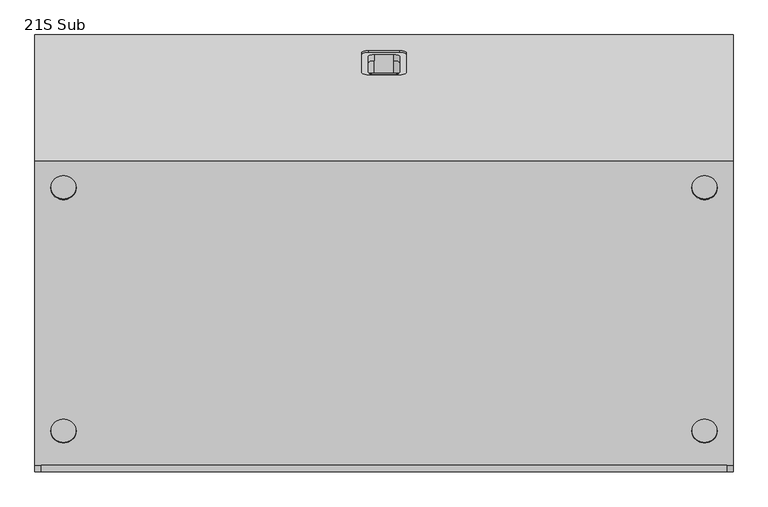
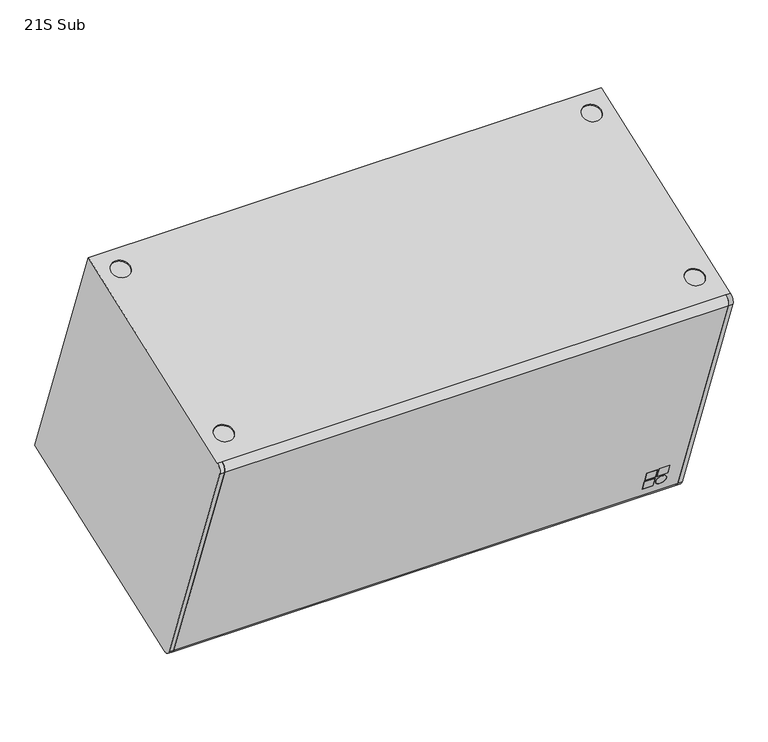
"""IFC4 building model written with IfcOpenShell, lengths in millimetres: proxy geometry, d&b xS-Series 21S Subwoofer : 21S Sub."""

from ifc_helpers import new_model, si_unit, point, frame, frame_2d, origin, place, context, project, spatial, polyline, circle_curve, trimmed, segment, composite_curve, outline, extrude, source, transform, mapped, element, save
from ifc_brep_helpers import plane_surface, cylinder_surface, revolved_surface, advanced_brep


def proxy_21s_sub_c40fc60f(model_context):
    return source(origin(), model_context, "Body", "SolidModel", [
        advanced_brep(
        [(540.0, -192.0343841, -362.5436872), (540.0, -172.8086926, -371.5087743), (540.0, -174.5187933, -366.8103112), (540.0, -187.335921, -360.8335865), (540.0, -375.4469998, 155.997355), (540.0, -369.470275, 168.8144826), (540.0, -371.1803757, 173.5129457), (540.0, -380.1454629, 154.2872542), (-540.0, -192.0343841, -362.5436872), (-540.0, -380.1454629, 154.2872542), (-540.0, -371.1803757, 173.5129457), (-540.0, -369.470275, 168.8144826), (-540.0, -375.4469998, 155.997355), (-540.0, -187.335921, -360.8335865), (-540.0, -174.5187933, -366.8103112), (-540.0, -172.8086926, -371.5087743), (460.0, -206.8552569, -321.8236736), (483.3333333, -206.8552569, -321.8236736), (483.3333333, -198.8747869, -343.7498348), (460.0, -198.8747869, -343.7498348), (460.0, -215.9757941, -296.7652037), (483.3333333, -215.9757941, -296.7652037), (483.3333333, -207.9953241, -318.6913649), (460.0, -207.9953241, -318.6913649), (486.6666667, -215.9757941, -296.7652037), (510.0, -215.9757941, -296.7652037), (510.0, -207.9953241, -318.6913649), (486.6666667, -207.9953241, -318.6913649), (498.3333333, -206.8552569, -321.8236736), (498.3333333, -198.8747869, -343.7498348), (483.3333333, -202.1567938, -320.1135729), (460.0, -202.1567938, -320.1135729), (460.0, -194.1763238, -342.0397341), (483.3333333, -194.1763238, -342.0397341), (483.3333333, -211.277331, -295.055103), (460.0, -211.277331, -295.055103), (460.0, -203.296861, -316.9812642), (483.3333333, -203.296861, -316.9812642), (510.0, -211.277331, -295.055103), (486.6666667, -211.277331, -295.055103), (486.6666667, -203.296861, -316.9812642), (510.0, -203.296861, -316.9812642), (498.3333333, -194.1763238, -342.0397341), (498.3333333, -202.1567938, -320.1135729)],
        [
            (0, 1, circle_curve(frame((540.0, -177.9389948, -357.413385), z_axis=(1.0, 0.0, 0.0), x_axis=(0.0, 0.9396926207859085, 0.34202014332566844)), 15.0)),
            (1, 2),
            (2, 3, circle_curve(frame((540.0, -177.9389948, -357.413385), z_axis=(-1.0, 0.0, 0.0), x_axis=(0.0, 0.9396926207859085, 0.34202014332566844)), 10.0)),
            (3, 4),
            (4, 5, circle_curve(frame((540.0, -366.0500736, 159.4175564), z_axis=(-1.0, 0.0, 0.0), x_axis=(0.0, 0.9396926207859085, 0.34202014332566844)), 10.0)),
            (5, 6),
            (6, 7, circle_curve(frame((540.0, -366.0500736, 159.4175564), z_axis=(1.0, 0.0, 0.0), x_axis=(0.0, 0.9396926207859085, 0.34202014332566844)), 15.0)),
            (7, 0),
            (8, 9),
            (9, 10, circle_curve(frame((-540.0, -366.0500736, 159.4175564), z_axis=(-1.0, 0.0, 0.0), x_axis=(0.0, 0.9396926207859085, 0.34202014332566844)), 15.0)),
            (10, 11),
            (11, 12, circle_curve(frame((-540.0, -366.0500736, 159.4175564), z_axis=(1.0, 0.0, 0.0), x_axis=(0.0, 0.9396926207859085, 0.34202014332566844)), 10.0)),
            (12, 13),
            (13, 14, circle_curve(frame((-540.0, -177.9389948, -357.413385), z_axis=(1.0, 0.0, 0.0), x_axis=(0.0, 0.9396926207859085, 0.34202014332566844)), 10.0)),
            (14, 15),
            (15, 8, circle_curve(frame((-540.0, -177.9389948, -357.413385), z_axis=(-1.0, 0.0, 0.0), x_axis=(0.0, 0.9396926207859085, 0.34202014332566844)), 15.0)),
            (6, 10),
            (9, 7),
            (8, 0),
            (16, 17),
            (17, 18),
            (18, 19),
            (19, 16),
            (20, 21),
            (21, 22),
            (22, 23),
            (23, 20),
            (24, 25),
            (25, 26),
            (26, 27),
            (27, 24),
            (28, 29, circle_curve(frame((498.3333333, -202.8650219, -332.7867542), z_axis=(0.0, 0.9396926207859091, 0.34202014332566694), x_axis=(0.0, 0.34202014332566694, -0.9396926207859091)), 11.6666667)),
            (29, 28, circle_curve(frame((498.3333333, -202.8650219, -332.7867542), z_axis=(0.0, 0.9396926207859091, 0.34202014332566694), x_axis=(0.0, 0.34202014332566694, -0.9396926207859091)), 11.6666667)),
            (15, 1),
            (14, 2),
            (13, 3),
            (12, 4),
            (30, 31),
            (31, 32),
            (32, 33),
            (33, 30),
            (34, 35),
            (35, 36),
            (36, 37),
            (37, 34),
            (38, 39),
            (39, 40),
            (40, 41),
            (41, 38),
            (42, 43, circle_curve(frame((498.3333333, -198.1665588, -331.0766535), z_axis=(0.0, -0.9396926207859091, -0.34202014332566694), x_axis=(0.0, 0.34202014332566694, -0.9396926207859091)), 11.6666667)),
            (43, 42, circle_curve(frame((498.3333333, -198.1665588, -331.0766535), z_axis=(0.0, -0.9396926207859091, -0.34202014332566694), x_axis=(0.0, 0.34202014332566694, -0.9396926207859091)), 11.6666667)),
            (11, 5),
            (16, 31),
            (30, 17),
            (33, 18),
            (32, 19),
            (20, 35),
            (34, 21),
            (37, 22),
            (36, 23),
            (24, 39),
            (38, 25),
            (41, 26),
            (40, 27),
            (28, 43),
            (42, 29),
        ],
        [
            plane_surface(frame((540.0, -163.8436054, -352.2830829), z_axis=(1.0, 0.0, 0.0), x_axis=(0.0, -0.34202014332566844, 0.9396926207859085))),
            plane_surface(frame((-540.0, -163.8436054, -352.2830829), z_axis=(-1.0, 0.0, 0.0), x_axis=(0.0, 0.34202014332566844, -0.9396926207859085))),
            cylinder_surface(frame((-540.0, -366.0500736, 159.4175564), z_axis=(1.0, 0.0, 0.0), x_axis=(0.0, 0.9396926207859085, 0.34202014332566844)), 15.0),
            plane_surface(frame((540.0, -380.1454629, 154.2872542), z_axis=(0.0, -0.9396926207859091, -0.34202014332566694), x_axis=(-1.0, 0.0, 0.0))),
            cylinder_surface(frame((-540.0, -177.9389948, -357.413385), z_axis=(1.0, 0.0, 0.0), x_axis=(0.0, 0.9396926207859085, 0.34202014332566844)), 15.0),
            plane_surface(frame((540.0, -172.8086926, -371.5087743), z_axis=(0.0, 0.9396926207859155, 0.34202014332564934), x_axis=(-1.0, 0.0, 0.0))),
            revolved_surface(polyline([(-540.0, -168.5420685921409, -353.9931835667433), (540.0, -168.5420685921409, -353.9931835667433)]), (-540.0, -177.9389948, -357.413385), (-1.0, 0.0, 0.0)),
            plane_surface(frame((540.0, -187.335921, -360.8335865), z_axis=(0.0, 0.9396926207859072, 0.342020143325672), x_axis=(-1.0, 0.0, 0.0))),
            revolved_surface(polyline([(-540.0, -356.6531473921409, 162.8377578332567), (540.0, -356.6531473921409, 162.8377578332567)]), (-540.0, -366.0500736, 159.4175564), (-1.0, 0.0, 0.0)),
            plane_surface(frame((540.0, -369.470275, 168.8144826), z_axis=(0.0, 0.9396926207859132, 0.3420201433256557), x_axis=(-1.0, 0.0, 0.0))),
            plane_surface(frame((483.3333333, -206.8552569, -321.8236736), z_axis=(0.0, 0.34202014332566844, -0.9396926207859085), x_axis=(0.0, 0.9396926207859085, 0.34202014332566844))),
            plane_surface(frame((483.3333333, -198.8747869, -343.7498348), z_axis=(-1.0, 0.0, 0.0), x_axis=(0.0, 0.9396926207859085, 0.34202014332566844))),
            plane_surface(frame((460.0, -198.8747869, -343.7498348), z_axis=(0.0, -0.34202014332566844, 0.9396926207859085), x_axis=(0.0, 0.9396926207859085, 0.34202014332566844))),
            plane_surface(frame((460.0, -206.8552569, -321.8236736), z_axis=(1.0, 0.0, 0.0), x_axis=(0.0, 0.9396926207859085, 0.34202014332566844))),
            plane_surface(frame((483.3333333, -215.9757941, -296.7652037), z_axis=(0.0, 0.34202014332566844, -0.9396926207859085), x_axis=(0.0, 0.9396926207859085, 0.34202014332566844))),
            plane_surface(frame((483.3333333, -207.9953241, -318.6913649), z_axis=(-1.0, 0.0, 0.0), x_axis=(0.0, 0.9396926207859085, 0.34202014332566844))),
            plane_surface(frame((460.0, -207.9953241, -318.6913649), z_axis=(0.0, -0.34202014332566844, 0.9396926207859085), x_axis=(0.0, 0.9396926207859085, 0.34202014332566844))),
            plane_surface(frame((460.0, -215.9757941, -296.7652037), z_axis=(1.0, 0.0, 0.0), x_axis=(0.0, 0.9396926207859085, 0.34202014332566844))),
            plane_surface(frame((510.0, -215.9757941, -296.7652037), z_axis=(0.0, 0.34202014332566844, -0.9396926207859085), x_axis=(0.0, 0.9396926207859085, 0.34202014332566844))),
            plane_surface(frame((510.0, -207.9953241, -318.6913649), z_axis=(-1.0, 0.0, 0.0), x_axis=(0.0, 0.9396926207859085, 0.34202014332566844))),
            plane_surface(frame((486.6666667, -207.9953241, -318.6913649), z_axis=(0.0, -0.34202014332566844, 0.9396926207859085), x_axis=(0.0, 0.9396926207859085, 0.34202014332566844))),
            plane_surface(frame((486.6666667, -215.9757941, -296.7652037), z_axis=(1.0, 0.0, 0.0), x_axis=(0.0, 0.9396926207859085, 0.34202014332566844))),
            revolved_surface(polyline([(498.3333333, -198.87478689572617, -343.7498348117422), (498.3333333, -194.1763237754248, -342.039734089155)]), (498.3333333, -202.8650219, -332.7867542), (0.0, -0.9396926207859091, -0.34202014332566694)),
        ],
        [
            (0, [[1, 2, 3, 4, 5, 6, 7, 8]]),
            (1, [[9, 10, 11, 12, 13, 14, 15, 16]]),
            (2, [[-7, 17, -10, 18]]),
            (3, [[-8, -18, -9, 19], [20, 21, 22, 23], [24, 25, 26, 27], [28, 29, 30, 31], [32, 33]]),
            (4, [[-1, -19, -16, 34]]),
            (5, [[-2, -34, -15, 35]]),
            (6, [[-3, -35, -14, 36]]),
            (7, [[-4, -36, -13, 37], [38, 39, 40, 41], [42, 43, 44, 45], [46, 47, 48, 49], [50, 51]]),
            (8, [[-5, -37, -12, 52]]),
            (9, [[-6, -52, -11, -17]]),
            (10, [[53, -38, 54, -20]]),
            (11, [[-54, -41, 55, -21]]),
            (12, [[-55, -40, 56, -22]]),
            (13, [[-53, -23, -56, -39]]),
            (14, [[57, -42, 58, -24]]),
            (15, [[-58, -45, 59, -25]]),
            (16, [[-59, -44, 60, -26]]),
            (17, [[-57, -27, -60, -43]]),
            (18, [[61, -46, 62, -28]]),
            (19, [[-62, -49, 63, -29]]),
            (20, [[-63, -48, 64, -30]]),
            (21, [[-61, -31, -64, -47]]),
            (22, [[65, -50, 66, -32]]),
            (22, [[-65, -33, -66, -51]]),
        ],
    ),
        extrude(outline(polyline([(0.0, -23.3333333), (0.0, 0.0), (5.0, 0.0), (5.0, -23.3333333), (0.0, -23.3333333)])), frame((460.0, -198.8747869, -343.7498348), z_axis=(0.0, -0.34202014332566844, 0.9396926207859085), x_axis=(0.0, 0.9396926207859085, 0.34202014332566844)), (0.0, 0.0, 1.0), 23.3333333),
        extrude(outline(polyline([(0.0, -23.3333333), (0.0, 0.0), (5.0, 0.0), (5.0, -23.3333333), (0.0, -23.3333333)])), frame((460.0, -207.9953241, -318.6913649), z_axis=(0.0, -0.34202014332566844, 0.9396926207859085), x_axis=(0.0, 0.9396926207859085, 0.34202014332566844)), (0.0, 0.0, 1.0), 23.3333333),
        extrude(outline(polyline([(0.0, -23.3333333), (0.0, 0.0), (5.0, 0.0), (5.0, -23.3333333), (0.0, -23.3333333)])), frame((486.6666667, -207.9953241, -318.6913649), z_axis=(0.0, -0.34202014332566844, 0.9396926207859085), x_axis=(0.0, 0.9396926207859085, 0.34202014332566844)), (0.0, 0.0, 1.0), 23.3333333),
        extrude(outline(composite_curve([segment(trimmed(circle_curve(frame_2d((-17.5, -38.3333333)), 11.6666667), [point((-29.1666667, -38.3333333))], [point((-5.8333333, -38.3333333))], False, "CARTESIAN"), True, "CONTINUOUS"), segment(trimmed(circle_curve(frame_2d((-17.5, -38.3333333)), 11.6666667), [point((-5.8333333, -38.3333333))], [point((-29.1666667, -38.3333333))], False, "CARTESIAN"), True, "CONTINUOUS")], self_intersect=False)), frame((460.0, -196.8796694, -349.2313751), z_axis=(0.0, 0.9396926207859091, 0.34202014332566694), x_axis=(0.0, 0.34202014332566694, -0.9396926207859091)), (0.0, 0.0, 1.0), 5.0),
        advanced_brep(
        [(540.0, -172.8086926, -371.5087743), (-540.0, -172.8086926, -371.5087743), (-550.0, -172.8086926, -371.5087743), (-550.0, 306.9043903, -196.9074912), (550.0, 306.9043903, -196.9074912), (550.0, -172.8086926, -371.5087743), (-505.0, 245.82437, -219.1388005), (-505.0, 283.4120748, -205.4579948), (-505.0, -137.5702193, -358.683019), (-505.0, -99.9825145, -345.0022132), (505.0, 245.82437, -219.1388005), (505.0, 283.4120748, -205.4579948), (505.0, -137.5702193, -358.683019), (505.0, -99.9825145, -345.0022132), (550.0, 108.5327072, 348.1142289), (-550.0, 108.5327072, 348.1142289), (-35.0, 278.6877285, -119.38285), (-25.0, 282.1079299, -128.7797762), (25.0, 282.1079299, -128.7797762), (35.0, 278.6877285, -119.38285), (35.0, 247.9059156, -34.8105141), (25.0, 244.4857142, -25.4135879), (-25.0, 244.4857142, -25.4135879), (-35.0, 247.9059156, -34.8105141), (-540.0, -371.1803757, 173.5129457), (540.0, -371.1803757, 173.5129457), (550.0, -371.1803757, 173.5129457), (-550.0, -371.1803757, 173.5129457), (-525.0, 66.2465392, 332.7233224), (-485.0, 66.2465392, 332.7233224), (-525.0, -317.14805, 193.1791039), (-485.0, -317.14805, 193.1791039), (485.0, 66.2465392, 332.7233224), (525.0, 66.2465392, 332.7233224), (485.0, -317.14805, 193.1791039), (525.0, -317.14805, 193.1791039), (-540.0, -369.470275, 168.8144826), (540.0, -369.470275, 168.8144826), (-540.0, -375.4469998, 155.997355), (540.0, -375.4469998, 155.997355), (-540.0, -187.335921, -360.8335865), (540.0, -187.335921, -360.8335865), (-540.0, -174.5187933, -366.8103112), (540.0, -174.5187933, -366.8103112), (540.0, -192.0343841, -362.5436872), (540.0, -380.1454629, 154.2872542), (550.0, -380.1454629, 154.2872542), (550.0, -192.0343841, -362.5436872), (550.0, -152.9611258, -316.396851), (550.0, -115.3734209, -302.7160453), (550.0, 230.4334635, -176.8526326), (550.0, 268.0211683, -163.1718268), (550.0, -320.550996, 144.0525331), (550.0, -282.9632912, 157.7333389), (550.0, 62.8435933, 283.5967516), (550.0, 100.4312981, 297.2775574), (-540.0, -380.1454629, 154.2872542), (-540.0, -192.0343841, -362.5436872), (-550.0, -192.0343841, -362.5436872), (-550.0, -380.1454629, 154.2872542), (-25.0, 279.2888521, -129.8058366), (-35.0, 275.8686506, -120.4089104), (-35.0, 245.0868377, -35.8365745), (-25.0, 241.6666363, -26.4396483), (25.0, 241.6666363, -26.4396483), (35.0, 245.0868377, -35.8365745), (35.0, 275.8686506, -120.4089104), (25.0, 279.2888521, -129.8058366), (25.0, 272.4484492, -111.0119842), (25.0, 248.5070392, -45.2335007), (15.0, 245.0868377, -35.8365745), (-15.0, 245.0868377, -35.8365745), (-25.0, 248.5070392, -45.2335007), (-25.0, 272.4484492, -111.0119842), (-15.0, 275.8686506, -120.4089104), (15.0, 275.8686506, -120.4089104), (-25.0, 239.1101129, -48.6537022), (-15.0, 235.6899115, -39.256776), (15.0, 235.6899115, -39.256776), (25.0, 239.1101129, -48.6537022), (25.0, 246.3622843, -68.5788791), (-25.0, 246.3622843, -68.5788791), (-25.0, 263.051523, -114.4321856), (-15.0, 266.4717244, -123.8291118), (25.0, 263.051523, -114.4321856), (15.0, 266.4717244, -123.8291118), (25.0, 213.4730425, -80.5495841), (25.0, 230.1622813, -126.4028906), (15.0, 233.5824827, -135.7998168), (-15.0, 233.5824827, -135.7998168), (-25.0, 230.1622813, -126.4028906), (-25.0, 213.4730425, -80.5495841), (-505.0, 244.7983095, -216.3197226), (-505.0, 282.3860144, -202.6389169), (-505.0, -138.5962798, -355.8639411), (-505.0, -101.0085749, -342.1831354), (505.0, 244.7983095, -216.3197226), (505.0, 282.3860144, -202.6389169), (505.0, -138.5962798, -355.8639411), (505.0, -101.0085749, -342.1831354), (-485.0, 67.2725997, 329.9042446), (-525.0, 67.2725997, 329.9042446), (-485.0, -316.1219896, 190.3600261), (-525.0, -316.1219896, 190.3600261), (525.0, 67.2725997, 329.9042446), (485.0, 67.2725997, 329.9042446), (525.0, -316.1219896, 190.3600261), (485.0, -316.1219896, 190.3600261), (547.0, -152.9611258, -316.396851), (547.0, -115.3734209, -302.7160453), (547.0, 230.4334635, -176.8526326), (547.0, 268.0211683, -163.1718268), (547.0, -320.550996, 144.0525331), (547.0, -282.9632912, 157.7333389), (547.0, 62.8435933, 283.5967516), (547.0, 100.4312981, 297.2775574)],
        [
            (0, 1),
            (1, 2),
            (2, 3),
            (3, 4),
            (4, 5),
            (5, 0),
            (6, 7, circle_curve(frame((-505.0, 264.6182224, -212.2983976), z_axis=(0.0, -0.34202014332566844, 0.9396926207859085), x_axis=(0.0, 0.9396926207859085, 0.34202014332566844)), 20.0)),
            (7, 6, circle_curve(frame((-505.0, 264.6182224, -212.2983976), z_axis=(0.0, -0.34202014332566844, 0.9396926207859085), x_axis=(0.0, 0.9396926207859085, 0.34202014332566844)), 20.0)),
            (8, 9, circle_curve(frame((-505.0, -118.7763669, -351.8426161), z_axis=(0.0, -0.34202014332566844, 0.9396926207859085), x_axis=(0.0, 0.9396926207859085, 0.34202014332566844)), 20.0)),
            (9, 8, circle_curve(frame((-505.0, -118.7763669, -351.8426161), z_axis=(0.0, -0.34202014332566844, 0.9396926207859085), x_axis=(0.0, 0.9396926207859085, 0.34202014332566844)), 20.0)),
            (10, 11, circle_curve(frame((505.0, 264.6182224, -212.2983976), z_axis=(0.0, -0.34202014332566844, 0.9396926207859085), x_axis=(0.0, 0.9396926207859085, 0.34202014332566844)), 20.0)),
            (11, 10, circle_curve(frame((505.0, 264.6182224, -212.2983976), z_axis=(0.0, -0.34202014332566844, 0.9396926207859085), x_axis=(0.0, 0.9396926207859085, 0.34202014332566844)), 20.0)),
            (12, 13, circle_curve(frame((505.0, -118.7763669, -351.8426161), z_axis=(0.0, -0.34202014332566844, 0.9396926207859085), x_axis=(0.0, 0.9396926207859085, 0.34202014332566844)), 20.0)),
            (13, 12, circle_curve(frame((505.0, -118.7763669, -351.8426161), z_axis=(0.0, -0.34202014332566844, 0.9396926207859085), x_axis=(0.0, 0.9396926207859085, 0.34202014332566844)), 20.0)),
            (14, 4),
            (3, 15),
            (15, 14),
            (16, 17, circle_curve(frame((-25.0, 278.6877285, -119.38285), z_axis=(0.0, -0.9396926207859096, -0.3420201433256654), x_axis=(0.0, -0.3420201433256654, 0.9396926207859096)), 10.0)),
            (17, 18),
            (18, 19, circle_curve(frame((25.0, 278.6877285, -119.38285), z_axis=(0.0, -0.9396926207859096, -0.3420201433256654), x_axis=(0.0, -0.3420201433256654, 0.9396926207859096)), 10.0)),
            (19, 20),
            (20, 21, circle_curve(frame((25.0, 247.9059156, -34.8105141), z_axis=(0.0, -0.9396926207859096, -0.3420201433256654), x_axis=(0.0, -0.3420201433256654, 0.9396926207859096)), 10.0)),
            (21, 22),
            (22, 23, circle_curve(frame((-25.0, 247.9059156, -34.8105141), z_axis=(0.0, -0.9396926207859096, -0.3420201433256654), x_axis=(0.0, -0.3420201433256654, 0.9396926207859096)), 10.0)),
            (23, 16),
            (24, 25),
            (25, 26),
            (26, 14),
            (15, 27),
            (27, 24),
            (28, 29, circle_curve(frame((-505.0, 66.2465392, 332.7233224), z_axis=(0.0, 0.34202014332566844, -0.9396926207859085), x_axis=(-1.0, 0.0, 0.0)), 20.0)),
            (29, 28, circle_curve(frame((-505.0, 66.2465392, 332.7233224), z_axis=(0.0, 0.34202014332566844, -0.9396926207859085), x_axis=(-1.0, 0.0, 0.0)), 20.0)),
            (30, 31, circle_curve(frame((-505.0, -317.14805, 193.1791039), z_axis=(0.0, 0.34202014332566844, -0.9396926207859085), x_axis=(-1.0, 0.0, 0.0)), 20.0)),
            (31, 30, circle_curve(frame((-505.0, -317.14805, 193.1791039), z_axis=(0.0, 0.34202014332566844, -0.9396926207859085), x_axis=(-1.0, 0.0, 0.0)), 20.0)),
            (32, 33, circle_curve(frame((505.0, 66.2465392, 332.7233224), z_axis=(0.0, 0.34202014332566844, -0.9396926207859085), x_axis=(-1.0, 0.0, 0.0)), 20.0)),
            (33, 32, circle_curve(frame((505.0, 66.2465392, 332.7233224), z_axis=(0.0, 0.34202014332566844, -0.9396926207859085), x_axis=(-1.0, 0.0, 0.0)), 20.0)),
            (34, 35, circle_curve(frame((505.0, -317.14805, 193.1791039), z_axis=(0.0, 0.34202014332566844, -0.9396926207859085), x_axis=(-1.0, 0.0, 0.0)), 20.0)),
            (35, 34, circle_curve(frame((505.0, -317.14805, 193.1791039), z_axis=(0.0, 0.34202014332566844, -0.9396926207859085), x_axis=(-1.0, 0.0, 0.0)), 20.0)),
            (24, 36),
            (36, 37),
            (37, 25),
            (36, 38, circle_curve(frame((-540.0, -366.0500736, 159.4175564), z_axis=(1.0, 0.0, 0.0), x_axis=(0.0, 0.9396926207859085, 0.34202014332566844)), 10.0)),
            (38, 39),
            (39, 37, circle_curve(frame((540.0, -366.0500736, 159.4175564), z_axis=(-1.0, 0.0, 0.0), x_axis=(0.0, 0.9396926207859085, 0.34202014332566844)), 10.0)),
            (38, 40),
            (40, 41),
            (41, 39),
            (40, 42, circle_curve(frame((-540.0, -177.9389948, -357.413385), z_axis=(1.0, 0.0, 0.0), x_axis=(0.0, 0.9396926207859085, 0.34202014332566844)), 10.0)),
            (42, 43),
            (43, 41, circle_curve(frame((540.0, -177.9389948, -357.413385), z_axis=(-1.0, 0.0, 0.0), x_axis=(0.0, 0.9396926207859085, 0.34202014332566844)), 10.0)),
            (0, 43),
            (42, 1),
            (0, 44, circle_curve(frame((540.0, -177.9389948, -357.413385), z_axis=(-1.0, 0.0, 0.0), x_axis=(0.0, 0.9396926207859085, 0.34202014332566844)), 15.0)),
            (44, 45),
            (45, 25, circle_curve(frame((540.0, -366.0500736, 159.4175564), z_axis=(-1.0, 0.0, 0.0), x_axis=(0.0, 0.9396926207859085, 0.34202014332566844)), 15.0)),
            (26, 46, circle_curve(frame((550.0, -366.0500736, 159.4175564), z_axis=(1.0, 0.0, 0.0), x_axis=(0.0, 0.9396926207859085, 0.34202014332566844)), 15.0)),
            (46, 47),
            (47, 5, circle_curve(frame((550.0, -177.9389948, -357.413385), z_axis=(1.0, 0.0, 0.0), x_axis=(0.0, 0.9396926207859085, 0.34202014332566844)), 15.0)),
            (48, 49, circle_curve(frame((550.0, -134.1672734, -309.5564482), z_axis=(-1.0, 0.0, 0.0), x_axis=(0.0, 0.9396926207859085, 0.34202014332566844)), 20.0)),
            (49, 48, circle_curve(frame((550.0, -134.1672734, -309.5564482), z_axis=(-1.0, 0.0, 0.0), x_axis=(0.0, 0.9396926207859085, 0.34202014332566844)), 20.0)),
            (50, 51, circle_curve(frame((550.0, 249.2273159, -170.0122297), z_axis=(-1.0, 0.0, 0.0), x_axis=(0.0, 0.9396926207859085, 0.34202014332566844)), 20.0)),
            (51, 50, circle_curve(frame((550.0, 249.2273159, -170.0122297), z_axis=(-1.0, 0.0, 0.0), x_axis=(0.0, 0.9396926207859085, 0.34202014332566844)), 20.0)),
            (52, 53, circle_curve(frame((550.0, -301.7571436, 150.892936), z_axis=(-1.0, 0.0, 0.0), x_axis=(0.0, 0.9396926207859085, 0.34202014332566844)), 20.0)),
            (53, 52, circle_curve(frame((550.0, -301.7571436, 150.892936), z_axis=(-1.0, 0.0, 0.0), x_axis=(0.0, 0.9396926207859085, 0.34202014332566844)), 20.0)),
            (54, 55, circle_curve(frame((550.0, 81.6374457, 290.4371545), z_axis=(-1.0, 0.0, 0.0), x_axis=(0.0, 0.9396926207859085, 0.34202014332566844)), 20.0)),
            (55, 54, circle_curve(frame((550.0, 81.6374457, 290.4371545), z_axis=(-1.0, 0.0, 0.0), x_axis=(0.0, 0.9396926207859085, 0.34202014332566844)), 20.0)),
            (45, 46),
            (44, 47),
            (24, 56, circle_curve(frame((-540.0, -366.0500736, 159.4175564), z_axis=(1.0, 0.0, 0.0), x_axis=(0.0, 0.9396926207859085, 0.34202014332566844)), 15.0)),
            (56, 57),
            (57, 1, circle_curve(frame((-540.0, -177.9389948, -357.413385), z_axis=(1.0, 0.0, 0.0), x_axis=(0.0, 0.9396926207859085, 0.34202014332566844)), 15.0)),
            (2, 58, circle_curve(frame((-550.0, -177.9389948, -357.413385), z_axis=(-1.0, 0.0, 0.0), x_axis=(0.0, 0.9396926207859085, 0.34202014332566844)), 15.0)),
            (58, 59),
            (59, 27, circle_curve(frame((-550.0, -366.0500736, 159.4175564), z_axis=(-1.0, 0.0, 0.0), x_axis=(0.0, 0.9396926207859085, 0.34202014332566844)), 15.0)),
            (59, 56),
            (58, 57),
            (60, 61, circle_curve(frame((-25.0, 275.8686506, -120.4089104), z_axis=(0.0, 0.9396926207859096, 0.3420201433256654), x_axis=(0.0, -0.3420201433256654, 0.9396926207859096)), 10.0)),
            (61, 62),
            (62, 63, circle_curve(frame((-25.0, 245.0868377, -35.8365745), z_axis=(0.0, 0.9396926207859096, 0.3420201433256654), x_axis=(0.0, -0.3420201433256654, 0.9396926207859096)), 10.0)),
            (63, 64),
            (64, 65, circle_curve(frame((25.0, 245.0868377, -35.8365745), z_axis=(0.0, 0.9396926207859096, 0.3420201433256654), x_axis=(0.0, -0.3420201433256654, 0.9396926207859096)), 10.0)),
            (65, 66),
            (66, 67, circle_curve(frame((25.0, 275.8686506, -120.4089104), z_axis=(0.0, 0.9396926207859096, 0.3420201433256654), x_axis=(0.0, -0.3420201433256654, 0.9396926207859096)), 10.0)),
            (67, 60),
            (68, 69),
            (69, 70, circle_curve(frame((15.0, 248.5070392, -45.2335007), z_axis=(0.0, -0.9396926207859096, -0.3420201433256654), x_axis=(0.0, -0.3420201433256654, 0.9396926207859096)), 10.0)),
            (70, 71),
            (71, 72, circle_curve(frame((-15.0, 248.5070392, -45.2335007), z_axis=(0.0, -0.9396926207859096, -0.3420201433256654), x_axis=(0.0, -0.3420201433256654, 0.9396926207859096)), 10.0)),
            (72, 73),
            (73, 74, circle_curve(frame((-15.0, 272.4484492, -111.0119842), z_axis=(0.0, -0.9396926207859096, -0.3420201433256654), x_axis=(0.0, -0.3420201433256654, 0.9396926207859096)), 10.0)),
            (74, 75),
            (75, 68, circle_curve(frame((15.0, 272.4484492, -111.0119842), z_axis=(0.0, -0.9396926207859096, -0.3420201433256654), x_axis=(0.0, -0.3420201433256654, 0.9396926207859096)), 10.0)),
            (60, 17),
            (16, 61),
            (23, 62),
            (22, 63),
            (21, 64),
            (20, 65),
            (19, 66),
            (18, 67),
            (76, 77, circle_curve(frame((-15.0, 239.1101129, -48.6537022), z_axis=(0.0, 0.9396926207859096, 0.3420201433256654), x_axis=(0.0, -0.3420201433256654, 0.9396926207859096)), 10.0)),
            (77, 78),
            (78, 79, circle_curve(frame((15.0, 239.1101129, -48.6537022), z_axis=(0.0, 0.9396926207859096, 0.3420201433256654), x_axis=(0.0, -0.3420201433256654, 0.9396926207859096)), 10.0)),
            (79, 80),
            (80, 81),
            (81, 76),
            (78, 70),
            (69, 79),
            (77, 71),
            (76, 72),
            (73, 82),
            (82, 83, circle_curve(frame((-15.0, 263.051523, -114.4321856), z_axis=(0.0, -0.9396926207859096, -0.3420201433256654), x_axis=(0.0, -0.3420201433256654, 0.9396926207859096)), 10.0)),
            (83, 74),
            (84, 68),
            (75, 85),
            (85, 84, circle_curve(frame((15.0, 263.051523, -114.4321856), z_axis=(0.0, -0.9396926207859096, -0.3420201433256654), x_axis=(0.0, -0.3420201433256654, 0.9396926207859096)), 10.0)),
            (86, 87),
            (87, 88, circle_curve(frame((15.0, 230.1622813, -126.4028906), z_axis=(0.0, 0.9396926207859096, 0.3420201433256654), x_axis=(0.0, -0.3420201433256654, 0.9396926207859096)), 10.0)),
            (88, 89),
            (89, 90, circle_curve(frame((-15.0, 230.1622813, -126.4028906), z_axis=(0.0, 0.9396926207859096, 0.3420201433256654), x_axis=(0.0, -0.3420201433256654, 0.9396926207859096)), 10.0)),
            (90, 91),
            (91, 86),
            (91, 81),
            (80, 86),
            (84, 87),
            (85, 88),
            (83, 89),
            (82, 90),
            (92, 93, circle_curve(frame((-505.0, 263.5921619, -209.4793198), z_axis=(0.0, 0.34202014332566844, -0.9396926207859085), x_axis=(0.0, 0.9396926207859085, 0.34202014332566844)), 20.0)),
            (93, 92, circle_curve(frame((-505.0, 263.5921619, -209.4793198), z_axis=(0.0, 0.34202014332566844, -0.9396926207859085), x_axis=(0.0, 0.9396926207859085, 0.34202014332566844)), 20.0)),
            (94, 95, circle_curve(frame((-505.0, -119.8024273, -349.0235382), z_axis=(0.0, 0.34202014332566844, -0.9396926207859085), x_axis=(0.0, 0.9396926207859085, 0.34202014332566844)), 20.0)),
            (95, 94, circle_curve(frame((-505.0, -119.8024273, -349.0235382), z_axis=(0.0, 0.34202014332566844, -0.9396926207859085), x_axis=(0.0, 0.9396926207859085, 0.34202014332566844)), 20.0)),
            (96, 97, circle_curve(frame((505.0, 263.5921619, -209.4793198), z_axis=(0.0, 0.34202014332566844, -0.9396926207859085), x_axis=(0.0, 0.9396926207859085, 0.34202014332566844)), 20.0)),
            (97, 96, circle_curve(frame((505.0, 263.5921619, -209.4793198), z_axis=(0.0, 0.34202014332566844, -0.9396926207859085), x_axis=(0.0, 0.9396926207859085, 0.34202014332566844)), 20.0)),
            (98, 99, circle_curve(frame((505.0, -119.8024273, -349.0235382), z_axis=(0.0, 0.34202014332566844, -0.9396926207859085), x_axis=(0.0, 0.9396926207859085, 0.34202014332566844)), 20.0)),
            (99, 98, circle_curve(frame((505.0, -119.8024273, -349.0235382), z_axis=(0.0, 0.34202014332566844, -0.9396926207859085), x_axis=(0.0, 0.9396926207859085, 0.34202014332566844)), 20.0)),
            (93, 7),
            (6, 92),
            (95, 9),
            (8, 94),
            (97, 11),
            (10, 96),
            (99, 13),
            (12, 98),
            (100, 101, circle_curve(frame((-505.0, 67.2725997, 329.9042446), z_axis=(0.0, -0.34202014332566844, 0.9396926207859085), x_axis=(-1.0, 0.0, 0.0)), 20.0)),
            (101, 100, circle_curve(frame((-505.0, 67.2725997, 329.9042446), z_axis=(0.0, -0.34202014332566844, 0.9396926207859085), x_axis=(-1.0, 0.0, 0.0)), 20.0)),
            (102, 103, circle_curve(frame((-505.0, -316.1219896, 190.3600261), z_axis=(0.0, -0.34202014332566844, 0.9396926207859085), x_axis=(-1.0, 0.0, 0.0)), 20.0)),
            (103, 102, circle_curve(frame((-505.0, -316.1219896, 190.3600261), z_axis=(0.0, -0.34202014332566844, 0.9396926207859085), x_axis=(-1.0, 0.0, 0.0)), 20.0)),
            (104, 105, circle_curve(frame((505.0, 67.2725997, 329.9042446), z_axis=(0.0, -0.34202014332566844, 0.9396926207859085), x_axis=(-1.0, 0.0, 0.0)), 20.0)),
            (105, 104, circle_curve(frame((505.0, 67.2725997, 329.9042446), z_axis=(0.0, -0.34202014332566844, 0.9396926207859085), x_axis=(-1.0, 0.0, 0.0)), 20.0)),
            (106, 107, circle_curve(frame((505.0, -316.1219896, 190.3600261), z_axis=(0.0, -0.34202014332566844, 0.9396926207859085), x_axis=(-1.0, 0.0, 0.0)), 20.0)),
            (107, 106, circle_curve(frame((505.0, -316.1219896, 190.3600261), z_axis=(0.0, -0.34202014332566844, 0.9396926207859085), x_axis=(-1.0, 0.0, 0.0)), 20.0)),
            (100, 29),
            (28, 101),
            (102, 31),
            (30, 103),
            (104, 33),
            (32, 105),
            (106, 35),
            (34, 107),
            (108, 109, circle_curve(frame((547.0, -134.1672734, -309.5564482), z_axis=(1.0, 0.0, 0.0), x_axis=(0.0, 0.9396926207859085, 0.34202014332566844)), 20.0)),
            (109, 108, circle_curve(frame((547.0, -134.1672734, -309.5564482), z_axis=(1.0, 0.0, 0.0), x_axis=(0.0, 0.9396926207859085, 0.34202014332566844)), 20.0)),
            (110, 111, circle_curve(frame((547.0, 249.2273159, -170.0122297), z_axis=(1.0, 0.0, 0.0), x_axis=(0.0, 0.9396926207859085, 0.34202014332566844)), 20.0)),
            (111, 110, circle_curve(frame((547.0, 249.2273159, -170.0122297), z_axis=(1.0, 0.0, 0.0), x_axis=(0.0, 0.9396926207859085, 0.34202014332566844)), 20.0)),
            (112, 113, circle_curve(frame((547.0, -301.7571436, 150.892936), z_axis=(1.0, 0.0, 0.0), x_axis=(0.0, 0.9396926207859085, 0.34202014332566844)), 20.0)),
            (113, 112, circle_curve(frame((547.0, -301.7571436, 150.892936), z_axis=(1.0, 0.0, 0.0), x_axis=(0.0, 0.9396926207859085, 0.34202014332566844)), 20.0)),
            (114, 115, circle_curve(frame((547.0, 81.6374457, 290.4371545), z_axis=(1.0, 0.0, 0.0), x_axis=(0.0, 0.9396926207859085, 0.34202014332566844)), 20.0)),
            (115, 114, circle_curve(frame((547.0, 81.6374457, 290.4371545), z_axis=(1.0, 0.0, 0.0), x_axis=(0.0, 0.9396926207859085, 0.34202014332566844)), 20.0)),
            (109, 49),
            (48, 108),
            (111, 51),
            (50, 110),
            (113, 53),
            (52, 112),
            (115, 55),
            (54, 114),
        ],
        [
            plane_surface(frame((540.0, -172.8086926, -371.5087743), z_axis=(0.0, 0.34202014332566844, -0.9396926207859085), x_axis=(-1.0, 0.0, 0.0))),
            plane_surface(frame((540.0, 306.9043903, -196.9074912), z_axis=(0.0, 0.9396926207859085, 0.34202014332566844), x_axis=(-1.0, 0.0, 0.0))),
            plane_surface(frame((540.0, 108.5327072, 348.1142289), z_axis=(0.0, -0.34202014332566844, 0.9396926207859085), x_axis=(-1.0, 0.0, 0.0))),
            plane_surface(frame((540.0, -371.1803757, 173.5129457), z_axis=(0.0, -0.9396926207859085, -0.34202014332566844), x_axis=(-1.0, 0.0, 0.0))),
            cylinder_surface(frame((-540.0, -366.0500736, 159.4175564), z_axis=(1.0, 0.0, 0.0), x_axis=(0.0, 0.9396926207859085, 0.34202014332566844)), 10.0),
            plane_surface(frame((540.0, -375.4469998, 155.997355), z_axis=(0.0, -0.9396926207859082, -0.34202014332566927), x_axis=(-1.0, 0.0, 0.0))),
            cylinder_surface(frame((-540.0, -177.9389948, -357.413385), z_axis=(1.0, 0.0, 0.0), x_axis=(0.0, 0.9396926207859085, 0.34202014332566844)), 10.0),
            plane_surface(frame((540.0, -174.5187933, -366.8103112), z_axis=(0.0, -0.9396926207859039, -0.34202014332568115), x_axis=(-1.0, 0.0, 0.0))),
            plane_surface(frame((540.0, 29.3636039, 319.2990318), z_axis=(-1.0, 0.0, 0.0), x_axis=(0.0, 0.9396926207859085, 0.34202014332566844))),
            plane_surface(frame((550.0, 29.3636039, 319.2990318), z_axis=(1.0, 0.0, 0.0), x_axis=(0.0, -0.9396926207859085, -0.34202014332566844))),
            cylinder_surface(frame((550.0, -366.0500736, 159.4175564), z_axis=(-1.0, 0.0, 0.0), x_axis=(0.0, 0.9396926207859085, 0.34202014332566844)), 15.0),
            plane_surface(frame((540.0, -192.0343841, -362.5436872), z_axis=(0.0, -0.9396926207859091, -0.3420201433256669), x_axis=(1.0, 0.0, 0.0))),
            cylinder_surface(frame((550.0, -177.9389948, -357.413385), z_axis=(-1.0, 0.0, 0.0), x_axis=(0.0, 0.9396926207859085, 0.34202014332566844)), 15.0),
            plane_surface(frame((-540.0, -351.9546843, 164.5478585), z_axis=(1.0, 0.0, 0.0), x_axis=(0.0, -0.34202014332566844, 0.9396926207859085))),
            plane_surface(frame((-550.0, -351.9546843, 164.5478585), z_axis=(-1.0, 0.0, 0.0), x_axis=(0.0, 0.34202014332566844, -0.9396926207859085))),
            cylinder_surface(frame((-550.0, -366.0500736, 159.4175564), z_axis=(1.0, 0.0, 0.0), x_axis=(0.0, 0.9396926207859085, 0.34202014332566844)), 15.0),
            plane_surface(frame((-540.0, -380.1454629, 154.2872542), z_axis=(0.0, -0.9396926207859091, -0.3420201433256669), x_axis=(-1.0, 0.0, 0.0))),
            cylinder_surface(frame((-550.0, -177.9389948, -357.413385), z_axis=(1.0, 0.0, 0.0), x_axis=(0.0, 0.9396926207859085, 0.34202014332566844)), 15.0),
            plane_surface(frame((-25.0, 272.4484492, -111.0119842), z_axis=(0.0, 0.9396926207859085, 0.34202014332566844), x_axis=(-1.0, 0.0, 0.0))),
            revolved_surface(polyline([(-25.0, 275.26752705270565, -109.98592375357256), (-25.0, 272.4484491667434, -111.0119841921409)]), (-25.0, 275.8686506, -120.4089104), (0.0, 0.9396926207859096, 0.3420201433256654)),
            plane_surface(frame((-35.0, 278.6877285, -119.38285), z_axis=(1.0, 0.0, 0.0), x_axis=(0.0, -0.9396926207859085, -0.34202014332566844))),
            revolved_surface(polyline([(-25.0, 244.4857141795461, -25.413587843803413), (-25.0, 241.66663626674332, -26.4396482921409)]), (-25.0, 245.0868377, -35.8365745), (0.0, 0.9396926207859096, 0.3420201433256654)),
            plane_surface(frame((-25.0, 244.4857142, -25.4135879), z_axis=(0.0, 0.34202014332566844, -0.9396926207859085), x_axis=(0.0, -0.9396926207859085, -0.34202014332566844))),
            revolved_surface(polyline([(25.0, 244.4857141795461, -25.413587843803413), (25.0, 241.66663626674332, -26.4396482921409)]), (25.0, 245.0868377, -35.8365745), (0.0, 0.9396926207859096, 0.3420201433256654)),
            plane_surface(frame((35.0, 247.9059156, -34.8105141), z_axis=(-1.0, 0.0, 0.0), x_axis=(0.0, -0.9396926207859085, -0.34202014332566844))),
            revolved_surface(polyline([(25.0, 275.26752705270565, -109.98592375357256), (25.0, 272.4484491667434, -111.0119841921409)]), (25.0, 275.8686506, -120.4089104), (0.0, 0.9396926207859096, 0.3420201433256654)),
            plane_surface(frame((25.0, 282.1079299, -128.7797762), z_axis=(0.0, -0.34202014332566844, 0.9396926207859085), x_axis=(0.0, -0.9396926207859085, -0.34202014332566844))),
            plane_surface(frame((15.0, 259.6313215, -105.0352594), z_axis=(0.0, 0.9396926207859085, 0.34202014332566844), x_axis=(-1.0, 0.0, 0.0))),
            revolved_surface(polyline([(15.0, 245.0868377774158, -35.83657452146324), (15.0, 235.68991146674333, -39.2567759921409)]), (15.0, 239.1101129, -48.6537022), (0.0, 0.9396926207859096, 0.3420201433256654)),
            plane_surface(frame((-15.0, 245.0868377, -35.8365745), z_axis=(0.0, 0.34202014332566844, -0.9396926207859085), x_axis=(0.0, -0.9396926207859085, -0.34202014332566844))),
            revolved_surface(polyline([(-15.0, 245.0868377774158, -35.83657452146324), (-15.0, 235.68991146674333, -39.2567759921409)]), (-15.0, 239.1101129, -48.6537022), (0.0, 0.9396926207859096, 0.3420201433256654)),
            revolved_surface(polyline([(-15.0, 269.0282477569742, -101.61505796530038), (-15.0, 259.6313215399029, -105.03525940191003)]), (-15.0, 263.051523, -114.4321856), (0.0, 0.9396926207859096, 0.3420201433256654)),
            revolved_surface(polyline([(15.0, 269.0282477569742, -101.61505796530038), (15.0, 259.6313215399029, -105.03525940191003)]), (15.0, 263.051523, -114.4321856), (0.0, 0.9396926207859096, 0.3420201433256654)),
            plane_surface(frame((25.0, 230.1622813, -126.4028906), z_axis=(0.0, 0.9396926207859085, 0.34202014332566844), x_axis=(0.0, -0.34202014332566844, 0.9396926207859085))),
            plane_surface(frame((-25.0, 246.3622843, -68.5788791), z_axis=(0.0, 0.34202014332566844, -0.9396926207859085), x_axis=(0.0, -0.9396926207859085, -0.34202014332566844))),
            plane_surface(frame((25.0, 246.3622843, -68.5788791), z_axis=(-1.0, 0.0, 0.0), x_axis=(0.0, -0.9396926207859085, -0.34202014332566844))),
            revolved_surface(polyline([(15.0, 259.6313215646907, -105.0352593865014), (15.0, 226.74207983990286, -117.00596440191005)]), (15.0, 230.1622813, -126.4028906), (0.0, 0.9396926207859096, 0.3420201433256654)),
            plane_surface(frame((15.0, 266.4717244, -123.8291118), z_axis=(0.0, -0.34202014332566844, 0.9396926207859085), x_axis=(0.0, -0.9396926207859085, -0.34202014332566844))),
            revolved_surface(polyline([(-15.0, 259.6313215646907, -105.0352593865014), (-15.0, 226.74207983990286, -117.00596440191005)]), (-15.0, 230.1622813, -126.4028906), (0.0, 0.9396926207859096, 0.3420201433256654)),
            plane_surface(frame((-25.0, 263.051523, -114.4321856), z_axis=(1.0, 0.0, 0.0), x_axis=(0.0, -0.9396926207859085, -0.34202014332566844))),
            plane_surface(frame((-505.0, 282.3860144, -202.6389169), z_axis=(0.0, 0.34202014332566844, -0.9396926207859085), x_axis=(-1.0, 0.0, 0.0))),
            revolved_surface(polyline([(-505.0, 282.38601437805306, -202.63891685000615), (-505.0, 283.4120748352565, -205.4579947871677)]), (-505.0, 264.6182224, -212.2983976), (0.0, -0.34202014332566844, 0.9396926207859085)),
            revolved_surface(polyline([(-505.0, -101.00857492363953, -342.1831353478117), (-505.0, -99.9825144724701, -345.00221326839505)]), (-505.0, -129.7210115, -321.7724522), (0.0, -0.34202014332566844, 0.9396926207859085)),
            revolved_surface(polyline([(505.0, 282.3860143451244, -202.63891686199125), (505.0, 283.41207480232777, -205.4579947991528)]), (505.0, 253.6735778, -182.2282338), (0.0, -0.34202014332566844, 0.9396926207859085)),
            revolved_surface(polyline([(505.0, -101.00857492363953, -342.1831353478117), (505.0, -99.9825144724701, -345.00221326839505)]), (505.0, -129.7210115, -321.7724522), (0.0, -0.34202014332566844, 0.9396926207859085)),
            plane_surface(frame((-525.0, 67.2725997, 329.9042446), z_axis=(0.0, -0.34202014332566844, 0.9396926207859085), x_axis=(0.0, 0.9396926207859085, 0.34202014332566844))),
            revolved_surface(polyline([(-525.0, 66.24653928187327, 332.7233224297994), (-525.0, 67.2725997, 329.9042446)]), (-505.0, 67.2725997, 329.9042446), (0.0, -0.34202014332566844, 0.9396926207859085)),
            revolved_surface(polyline([(-525.0, -317.14805000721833, 193.17910389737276), (-525.0, -316.12198960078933, 190.36002609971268)]), (-505.0, -327.0666342, 220.43019), (0.0, -0.34202014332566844, 0.9396926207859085)),
            revolved_surface(polyline([(485.0, 66.24653924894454, 332.7233224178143), (485.0, 67.27259966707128, 329.90424458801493)]), (505.0, 56.3279551, 359.9744084), (0.0, -0.34202014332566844, 0.9396926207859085)),
            revolved_surface(polyline([(485.0, -317.14805000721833, 193.17910389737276), (485.0, -316.12198960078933, 190.36002609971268)]), (505.0, -327.0666342, 220.43019), (0.0, -0.34202014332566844, 0.9396926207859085)),
            plane_surface(frame((547.0, -115.3734209, -302.7160453), z_axis=(1.0, 0.0, 0.0), x_axis=(0.0, 0.34202014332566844, -0.9396926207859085))),
            revolved_surface(polyline([(547.0, -115.37342098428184, -302.7160453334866), (550.0, -115.37342098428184, -302.7160453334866)]), (550.0, -134.1672734, -309.5564482), (-1.0, 0.0, 0.0)),
            revolved_surface(polyline([(547.0, 268.02116831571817, -163.17182683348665), (550.0, 268.02116831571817, -163.17182683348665)]), (550.0, 249.2273159, -170.0122297), (-1.0, 0.0, 0.0)),
            revolved_surface(polyline([(547.0, -282.96329118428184, 157.73333886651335), (550.0, -282.96329118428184, 157.73333886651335)]), (550.0, -301.7571436, 150.892936), (-1.0, 0.0, 0.0)),
            revolved_surface(polyline([(547.0, 100.43129811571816, 297.2775573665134), (550.0, 100.43129811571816, 297.2775573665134)]), (550.0, 81.6374457, 290.4371545), (-1.0, 0.0, 0.0)),
        ],
        [
            (0, [[1, 2, 3, 4, 5, 6], [7, 8], [9, 10], [11, 12], [13, 14]]),
            (1, [[15, -4, 16, 17], [18, 19, 20, 21, 22, 23, 24, 25]]),
            (2, [[26, 27, 28, -17, 29, 30], [31, 32], [33, 34], [35, 36], [37, 38]]),
            (3, [[-26, 39, 40, 41]]),
            (4, [[-40, 42, 43, 44]]),
            (5, [[-43, 45, 46, 47]]),
            (6, [[-46, 48, 49, 50]]),
            (7, [[-1, 51, -49, 52]]),
            (8, [[53, 54, 55, -41, -44, -47, -50, -51]]),
            (9, [[56, 57, 58, -5, -15, -28], [59, 60], [61, 62], [63, 64], [65, 66]]),
            (10, [[-55, 67, -56, -27]]),
            (11, [[-54, 68, -57, -67]]),
            (12, [[-53, -6, -58, -68]]),
            (13, [[69, 70, 71, -52, -48, -45, -42, -39]]),
            (14, [[-29, -16, -3, 72, 73, 74]]),
            (15, [[-69, -30, -74, 75]]),
            (16, [[-70, -75, -73, 76]]),
            (17, [[-71, -76, -72, -2]]),
            (18, [[77, 78, 79, 80, 81, 82, 83, 84], [85, 86, 87, 88, 89, 90, 91, 92]]),
            (19, [[-77, 93, -18, 94]]),
            (20, [[-78, -94, -25, 95]]),
            (21, [[-79, -95, -24, 96]]),
            (22, [[-80, -96, -23, 97]]),
            (23, [[-81, -97, -22, 98]]),
            (24, [[-82, -98, -21, 99]]),
            (25, [[-83, -99, -20, 100]]),
            (26, [[-84, -100, -19, -93]]),
            (27, [[101, 102, 103, 104, 105, 106]]),
            (28, [[-103, 107, -86, 108]]),
            (29, [[-102, 109, -87, -107]]),
            (30, [[-101, 110, -88, -109]]),
            (31, [[111, 112, 113, -90]]),
            (32, [[114, -92, 115, 116]]),
            (33, [[117, 118, 119, 120, 121, 122]]),
            (34, [[-122, 123, -105, 124]]),
            (35, [[-117, -124, -104, -108, -85, -114, 125]]),
            (36, [[-118, -125, -116, 126]]),
            (37, [[-119, -126, -115, -91, -113, 127]]),
            (38, [[-120, -127, -112, 128]]),
            (39, [[-121, -128, -111, -89, -110, -106, -123]]),
            (40, [[129, 130]]),
            (40, [[131, 132]]),
            (40, [[133, 134]]),
            (40, [[135, 136]]),
            (41, [[-130, 137, -7, 138]]),
            (41, [[-129, -138, -8, -137]]),
            (42, [[-132, 139, -9, 140]]),
            (42, [[-131, -140, -10, -139]]),
            (43, [[-134, 141, -11, 142]]),
            (43, [[-133, -142, -12, -141]]),
            (44, [[-136, 143, -13, 144]]),
            (44, [[-135, -144, -14, -143]]),
            (45, [[145, 146]]),
            (45, [[147, 148]]),
            (45, [[149, 150]]),
            (45, [[151, 152]]),
            (46, [[-145, 153, -31, 154]]),
            (46, [[-146, -154, -32, -153]]),
            (47, [[-147, 155, -33, 156]]),
            (47, [[-148, -156, -34, -155]]),
            (48, [[-149, 157, -35, 158]]),
            (48, [[-150, -158, -36, -157]]),
            (49, [[-151, 159, -37, 160]]),
            (49, [[-152, -160, -38, -159]]),
            (50, [[161, 162]]),
            (50, [[163, 164]]),
            (50, [[165, 166]]),
            (50, [[167, 168]]),
            (51, [[-162, 169, -59, 170]]),
            (51, [[-161, -170, -60, -169]]),
            (52, [[-164, 171, -61, 172]]),
            (52, [[-163, -172, -62, -171]]),
            (53, [[-166, 173, -63, 174]]),
            (53, [[-165, -174, -64, -173]]),
            (54, [[-168, 175, -65, 176]]),
            (54, [[-167, -176, -66, -175]]),
        ],
    ),
    ])


if __name__ == "__main__":
    model = new_model("IFC4")
    model_context = context("Model", 3, world=origin())
    ifc_project = project(units=[si_unit("LENGTHUNIT", "METRE", prefix="MILLI")], contexts=[model_context])
    site = spatial("IfcSite", under=ifc_project)
    building = spatial("IfcBuilding", under=site)
    placement = place(None, origin())
    proxy_21s_sub_shape = proxy_21s_sub_c40fc60f(model_context)
    element("IfcBuildingElementProxy", 1, Name="d&b xS-Series 21S Subwoofer : 21S Sub", ObjectType="d&b xS-Series 21S Subwoofer : 21S Sub", at=placement, inside=building, context=model_context, shape_type="MappedRepresentation", body=[
        mapped(proxy_21s_sub_shape, transform((0.0, 0.0, 0.0), x_axis=(1.0, 0.0, 0.0), y_axis=(0.0, 1.0, 0.0), z_axis=(0.0, 0.0, 1.0))),
    ])
    save(model, "model.ifc")
